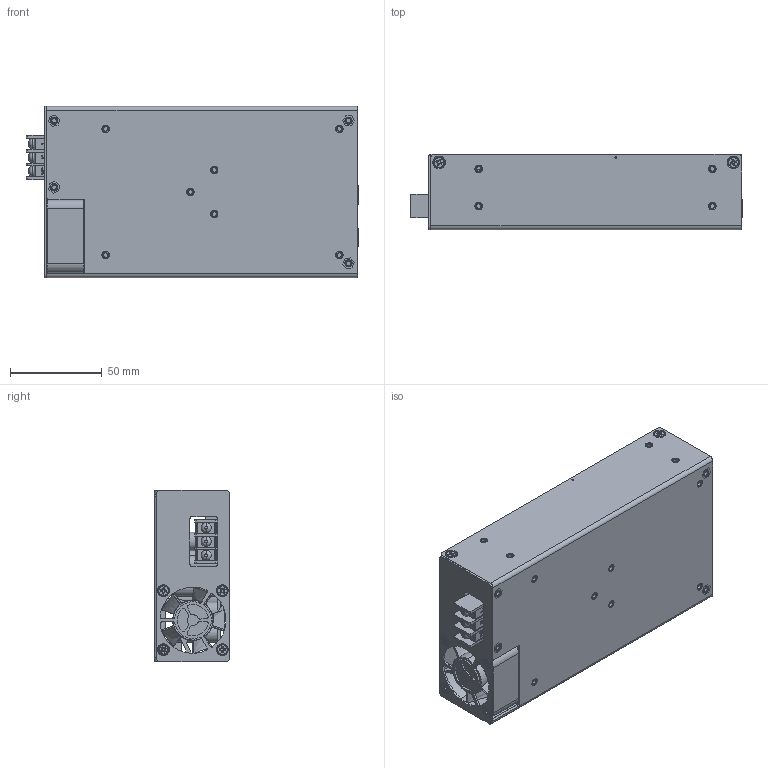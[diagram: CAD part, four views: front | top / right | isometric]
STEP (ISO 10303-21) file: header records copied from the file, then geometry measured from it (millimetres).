
FILE_DESCRIPTION (( 'STEP AP203' ), '1' );
FILE_NAME ('AQF700.STEP', '2019-10-15T06:57:45', ( '' ), ( '' ), 'SwSTEP 2.0', 'SolidWorks 2016', '' );
FILE_SCHEMA (( 'CONFIG_CONTROL_DESIGN' ));
Length unit declared in the file: millimetre
Products named in the file (1): AQF700
Bounding box: 180.45 x 41 x 93.02 mm (x, y, z)
Volume: 128011.8 mm3; surface area: 147072.5 mm2
Topology: 40 solids, 40 shells, 2272 faces, 5788 edges, 3705 vertices
Faces by surface type: plane 1002, cylinder 647, bspline 404, cone 213, torus 6
Entity records: 76164 total; most frequent: CARTESIAN_POINT 23070, ORIENTED_EDGE 11564, DIRECTION 10230, EDGE_CURVE 5782, VERTEX_POINT 3705, AXIS2_PLACEMENT_3D 3437, VECTOR 3356, LINE 3356
